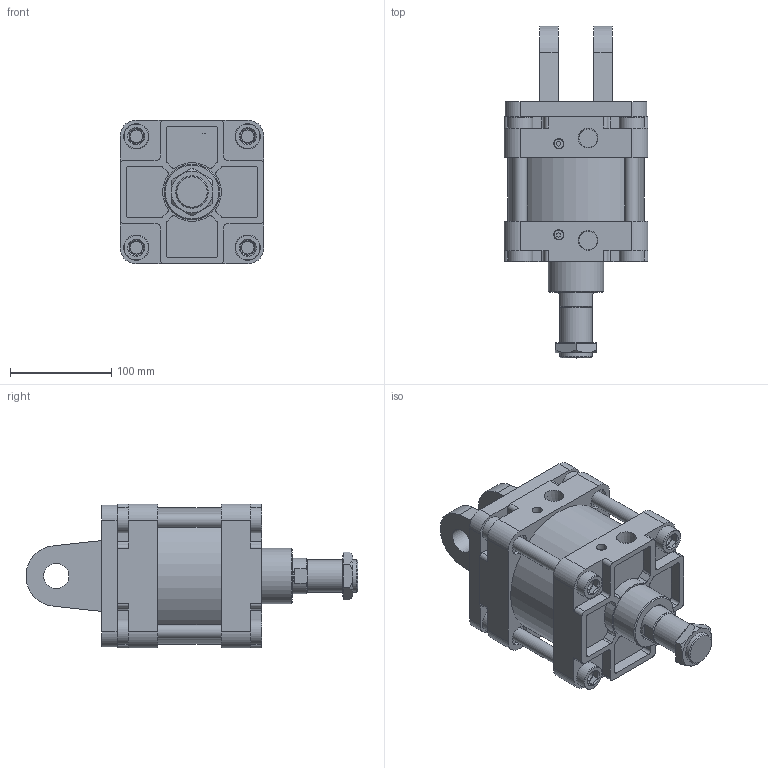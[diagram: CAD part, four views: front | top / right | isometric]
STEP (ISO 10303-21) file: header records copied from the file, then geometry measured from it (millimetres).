
FILE_DESCRIPTION(/* description */ ('Unknown'),/* implementation_level */ '2;1');
FILE_NAME(/* name */ 'WA125-0-CB',/* time_stamp */ '2026-07-17T16:58:58+08:00',/* author */ ('Unknown'),/* organization */ ('Unknown'),/* preprocessor_version */ 'ST-DEVELOPER v16.7',/* originating_system */ 'DEX',/* authorisation */ $);
FILE_SCHEMA (('CONFIG_CONTROL_DESIGN'));
Length unit declared in the file: millimetre
Products named in the file (8): WA125-0-CB; WA125_前R; WA125_«átationRefs; WA125_鋁; WA125_CB; WA125_心軸活; M32-2.0P-10_螺; WA125_T帽牙
Assembly tree (10 placements, depth 2):
  WA125-0-CB
    WA125_前R
    WA125_«átationRefs
    WA125_鋁
    WA125_CB
    WA125_心軸活
    M32-2.0P-10_螺
    WA125_T帽牙  x4
Bounding box: 142 x 327.89 x 142 mm (x, y, z)
Volume: 2775512.6 mm3; surface area: 402556.3 mm2
Topology: 10 solids, 10 shells, 424 faces, 1038 edges, 692 vertices
Faces by surface type: plane 238, cylinder 155, cone 23, torus 8
Full cylindrical faces by diameter (mm): 9 x2, 10 x2, 12.5 x8, 14 x4, 15 x4, 20 x8, 20.5 x8, 22.5 x4, 25 x10, 30 x1, 32 x1, 35 x1, 36 x1, 41 x1, 55 x1, 124.5 x1, 125 x3, 135 x1
Entity records: 11688 total; most frequent: CARTESIAN_POINT 1754, DIRECTION 1696, ORIENTED_EDGE 1508, EDGE_CURVE 754, AXIS2_PLACEMENT_3D 634, VERTEX_POINT 528, EDGE_LOOP 444, FACE_BOUND 444
